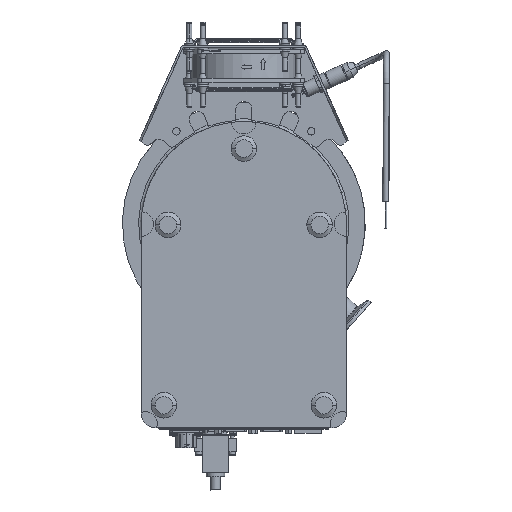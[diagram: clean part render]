
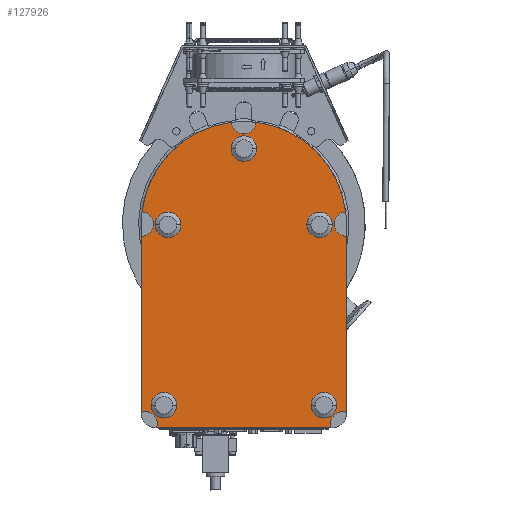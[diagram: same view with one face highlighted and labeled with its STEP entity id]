
A CAD part, front view. The second image highlights one B-rep face of the part: STEP entity #127926.
In plain terms, the highlighted planar face has unit normal (0, -1, 0).
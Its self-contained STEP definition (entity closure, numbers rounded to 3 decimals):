
#38359=CARTESIAN_POINT('',(0.,-79.65,0.));
#38360=DIRECTION('',(0.,-1.,0.));
#38361=DIRECTION('',(-0.118,0.,0.993));
#38362=AXIS2_PLACEMENT_3D('',#38359,#38360,#38361);
#38364=CARTESIAN_POINT('',(0.,-79.65,76.));
#38365=DIRECTION('',(0.,1.,0.));
#38366=DIRECTION('',(0.998,0.,-0.059));
#38367=AXIS2_PLACEMENT_3D('',#38364,#38365,#38366);
#38369=CARTESIAN_POINT('',(0.,-79.65,0.));
#38370=DIRECTION('',(0.,-1.,0.));
#38371=DIRECTION('',(0.993,0.,0.118));
#38372=AXIS2_PLACEMENT_3D('',#38369,#38370,#38371);
#38374=CARTESIAN_POINT('',(76.,-79.65,0.));
#38375=DIRECTION('',(0.,1.,0.));
#38376=DIRECTION('',(0.,0.,-1.));
#38377=AXIS2_PLACEMENT_3D('',#38374,#38375,#38376);
#38379=DIRECTION('',(0.,0.,1.));
#38380=VECTOR('',#38379,130.561);
#38381=CARTESIAN_POINT('',(76.,-79.65,-139.561));
#38382=LINE('',#38381,#38380);
#38383=CARTESIAN_POINT('',(73.071,-79.65,-148.071));
#38384=DIRECTION('',(0.,1.,0.));
#38385=DIRECTION('',(-0.946,0.,-0.325));
#38386=AXIS2_PLACEMENT_3D('',#38383,#38384,#38385);
#38388=DIRECTION('',(1.,0.,0.));
#38389=VECTOR('',#38388,129.122);
#38390=CARTESIAN_POINT('',(-64.561,-79.65,-151.));
#38391=LINE('',#38390,#38389);
#38392=CARTESIAN_POINT('',(-73.071,-79.65,-148.071));
#38393=DIRECTION('',(0.,1.,0.));
#38394=DIRECTION('',(-0.325,0.,0.946));
#38395=AXIS2_PLACEMENT_3D('',#38392,#38393,#38394);
#38397=DIRECTION('',(0.,0.,-1.));
#38398=VECTOR('',#38397,130.561);
#38399=CARTESIAN_POINT('',(-76.,-79.65,-9.));
#38400=LINE('',#38399,#38398);
#38401=CARTESIAN_POINT('',(-76.,-79.65,0.));
#38402=DIRECTION('',(0.,1.,0.));
#38403=DIRECTION('',(0.059,0.,0.998));
#38404=AXIS2_PLACEMENT_3D('',#38401,#38402,#38403);
#38406=CARTESIAN_POINT('',(-59.307,-79.65,-134.307));
#38407=DIRECTION('',(0.,1.,0.));
#38408=DIRECTION('',(1.,0.,0.));
#38409=AXIS2_PLACEMENT_3D('',#38406,#38407,#38408);
#38411=CARTESIAN_POINT('',(-59.307,-79.65,-134.307));
#38412=DIRECTION('',(0.,1.,0.));
#38413=DIRECTION('',(-1.,0.,0.));
#38414=AXIS2_PLACEMENT_3D('',#38411,#38412,#38413);
#38416=CARTESIAN_POINT('',(59.307,-79.65,-134.307));
#38417=DIRECTION('',(0.,1.,0.));
#38418=DIRECTION('',(1.,0.,0.));
#38419=AXIS2_PLACEMENT_3D('',#38416,#38417,#38418);
#38421=CARTESIAN_POINT('',(59.307,-79.65,-134.307));
#38422=DIRECTION('',(0.,1.,0.));
#38423=DIRECTION('',(-1.,0.,0.));
#38424=AXIS2_PLACEMENT_3D('',#38421,#38422,#38423);
#38426=CARTESIAN_POINT('',(56.215,-79.65,-0.586));
#38427=DIRECTION('',(0.,1.,0.));
#38428=DIRECTION('',(1.,0.,0.));
#38429=AXIS2_PLACEMENT_3D('',#38426,#38427,#38428);
#38431=CARTESIAN_POINT('',(56.215,-79.65,-0.586));
#38432=DIRECTION('',(0.,1.,0.));
#38433=DIRECTION('',(-1.,0.,0.));
#38434=AXIS2_PLACEMENT_3D('',#38431,#38432,#38433);
#38436=CARTESIAN_POINT('',(0.,-79.65,55.934));
#38437=DIRECTION('',(0.,1.,0.));
#38438=DIRECTION('',(1.,0.,0.));
#38439=AXIS2_PLACEMENT_3D('',#38436,#38437,#38438);
#38441=CARTESIAN_POINT('',(0.,-79.65,55.934));
#38442=DIRECTION('',(0.,1.,0.));
#38443=DIRECTION('',(-1.,0.,0.));
#38444=AXIS2_PLACEMENT_3D('',#38441,#38442,#38443);
#38446=CARTESIAN_POINT('',(-56.215,-79.65,-0.586));
#38447=DIRECTION('',(0.,1.,0.));
#38448=DIRECTION('',(1.,0.,0.));
#38449=AXIS2_PLACEMENT_3D('',#38446,#38447,#38448);
#38451=CARTESIAN_POINT('',(-56.215,-79.65,-0.586));
#38452=DIRECTION('',(0.,1.,0.));
#38453=DIRECTION('',(-1.,0.,0.));
#38454=AXIS2_PLACEMENT_3D('',#38451,#38452,#38453);
#48819=CARTESIAN_POINT('',(-8.984,-79.65,75.467));
#48820=CARTESIAN_POINT('',(-75.467,-79.65,8.984));
#48821=VERTEX_POINT('',#48819);
#48822=VERTEX_POINT('',#48820);
#48823=CARTESIAN_POINT('',(-76.,-79.65,-9.));
#48824=VERTEX_POINT('',#48823);
#48825=CARTESIAN_POINT('',(-76.,-79.65,-139.561));
#48826=VERTEX_POINT('',#48825);
#48827=CARTESIAN_POINT('',(-64.561,-79.65,-151.));
#48828=VERTEX_POINT('',#48827);
#48829=CARTESIAN_POINT('',(64.561,-79.65,-151.));
#48830=VERTEX_POINT('',#48829);
#48831=CARTESIAN_POINT('',(76.,-79.65,-139.561));
#48832=VERTEX_POINT('',#48831);
#48833=CARTESIAN_POINT('',(76.,-79.65,-9.));
#48834=VERTEX_POINT('',#48833);
#48835=CARTESIAN_POINT('',(75.467,-79.65,8.984));
#48836=VERTEX_POINT('',#48835);
#48837=CARTESIAN_POINT('',(8.984,-79.65,75.467));
#48838=VERTEX_POINT('',#48837);
#52852=CARTESIAN_POINT('',(-49.807,-79.65,-134.307));
#52853=CARTESIAN_POINT('',(-68.807,-79.65,-134.307));
#52854=VERTEX_POINT('',#52852);
#52855=VERTEX_POINT('',#52853);
#52860=CARTESIAN_POINT('',(68.807,-79.65,-134.307));
#52861=CARTESIAN_POINT('',(49.807,-79.65,-134.307));
#52862=VERTEX_POINT('',#52860);
#52863=VERTEX_POINT('',#52861);
#52868=CARTESIAN_POINT('',(65.715,-79.65,-0.586));
#52869=CARTESIAN_POINT('',(46.715,-79.65,-0.586));
#52870=VERTEX_POINT('',#52868);
#52871=VERTEX_POINT('',#52869);
#52876=CARTESIAN_POINT('',(9.5,-79.65,55.934));
#52877=CARTESIAN_POINT('',(-9.5,-79.65,55.934));
#52878=VERTEX_POINT('',#52876);
#52879=VERTEX_POINT('',#52877);
#52884=CARTESIAN_POINT('',(-46.715,-79.65,-0.586));
#52885=CARTESIAN_POINT('',(-65.715,-79.65,-0.586));
#52886=VERTEX_POINT('',#52884);
#52887=VERTEX_POINT('',#52885);
#127874=CARTESIAN_POINT('',(0.,-79.65,0.));
#127875=DIRECTION('',(0.,-1.,0.));
#127876=DIRECTION('',(1.,0.,0.));
#127877=AXIS2_PLACEMENT_3D('',#127874,#127875,#127876);
#127878=PLANE('',#127877);
#127879=ORIENTED_EDGE('',*,*,#115851,.F.);
#127880=ORIENTED_EDGE('',*,*,#127868,.F.);
#127881=ORIENTED_EDGE('',*,*,#115843,.F.);
#127883=ORIENTED_EDGE('',*,*,#127882,.F.);
#127885=ORIENTED_EDGE('',*,*,#127884,.F.);
#127887=ORIENTED_EDGE('',*,*,#127886,.F.);
#127888=ORIENTED_EDGE('',*,*,#116251,.F.);
#127890=ORIENTED_EDGE('',*,*,#127889,.F.);
#127891=ORIENTED_EDGE('',*,*,#127774,.F.);
#127893=ORIENTED_EDGE('',*,*,#127892,.F.);
#127894=EDGE_LOOP('',(#127879,#127880,#127881,#127883,#127885,#127887,#127888,
#127890,#127891,#127893));
#127895=FACE_OUTER_BOUND('',#127894,.F.);
#127897=ORIENTED_EDGE('',*,*,#127896,.F.);
#127899=ORIENTED_EDGE('',*,*,#127898,.F.);
#127900=EDGE_LOOP('',(#127897,#127899));
#127901=FACE_BOUND('',#127900,.F.);
#127903=ORIENTED_EDGE('',*,*,#127902,.F.);
#127905=ORIENTED_EDGE('',*,*,#127904,.F.);
#127906=EDGE_LOOP('',(#127903,#127905));
#127907=FACE_BOUND('',#127906,.F.);
#127909=ORIENTED_EDGE('',*,*,#127908,.F.);
#127911=ORIENTED_EDGE('',*,*,#127910,.F.);
#127912=EDGE_LOOP('',(#127909,#127911));
#127913=FACE_BOUND('',#127912,.F.);
#127915=ORIENTED_EDGE('',*,*,#127914,.F.);
#127917=ORIENTED_EDGE('',*,*,#127916,.F.);
#127918=EDGE_LOOP('',(#127915,#127917));
#127919=FACE_BOUND('',#127918,.F.);
#127921=ORIENTED_EDGE('',*,*,#127920,.F.);
#127923=ORIENTED_EDGE('',*,*,#127922,.F.);
#127924=EDGE_LOOP('',(#127921,#127923));
#127925=FACE_BOUND('',#127924,.F.);
#127926=ADVANCED_FACE('',(#127895,#127901,#127907,#127913,#127919,#127925),
#127878,.T.);
#38363=CIRCLE('',#38362,76.);
#38368=CIRCLE('',#38367,9.);
#38373=CIRCLE('',#38372,76.);
#38378=CIRCLE('',#38377,9.);
#38387=CIRCLE('',#38386,9.);
#38396=CIRCLE('',#38395,9.);
#38405=CIRCLE('',#38404,9.);
#38410=CIRCLE('',#38409,9.5);
#38415=CIRCLE('',#38414,9.5);
#38420=CIRCLE('',#38419,9.5);
#38425=CIRCLE('',#38424,9.5);
#38430=CIRCLE('',#38429,9.5);
#38435=CIRCLE('',#38434,9.5);
#38440=CIRCLE('',#38439,9.5);
#38445=CIRCLE('',#38444,9.5);
#38450=CIRCLE('',#38449,9.5);
#38455=CIRCLE('',#38454,9.5);
#115843=EDGE_CURVE('',#48836,#48838,#38373,.T.);
#115851=EDGE_CURVE('',#48821,#48822,#38363,.T.);
#116251=EDGE_CURVE('',#48828,#48830,#38391,.T.);
#127774=EDGE_CURVE('',#48824,#48826,#38400,.T.);
#127868=EDGE_CURVE('',#48838,#48821,#38368,.T.);
#127882=EDGE_CURVE('',#48834,#48836,#38378,.T.);
#127884=EDGE_CURVE('',#48832,#48834,#38382,.T.);
#127886=EDGE_CURVE('',#48830,#48832,#38387,.T.);
#127889=EDGE_CURVE('',#48826,#48828,#38396,.T.);
#127892=EDGE_CURVE('',#48822,#48824,#38405,.T.);
#127896=EDGE_CURVE('',#52854,#52855,#38410,.T.);
#127898=EDGE_CURVE('',#52855,#52854,#38415,.T.);
#127902=EDGE_CURVE('',#52862,#52863,#38420,.T.);
#127904=EDGE_CURVE('',#52863,#52862,#38425,.T.);
#127908=EDGE_CURVE('',#52870,#52871,#38430,.T.);
#127910=EDGE_CURVE('',#52871,#52870,#38435,.T.);
#127914=EDGE_CURVE('',#52878,#52879,#38440,.T.);
#127916=EDGE_CURVE('',#52879,#52878,#38445,.T.);
#127920=EDGE_CURVE('',#52886,#52887,#38450,.T.);
#127922=EDGE_CURVE('',#52887,#52886,#38455,.T.);
